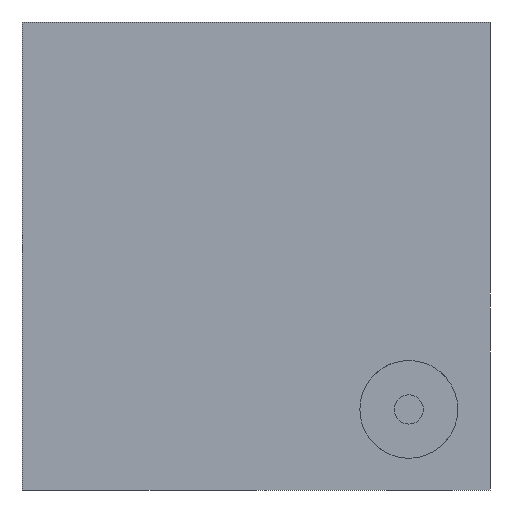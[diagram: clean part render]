
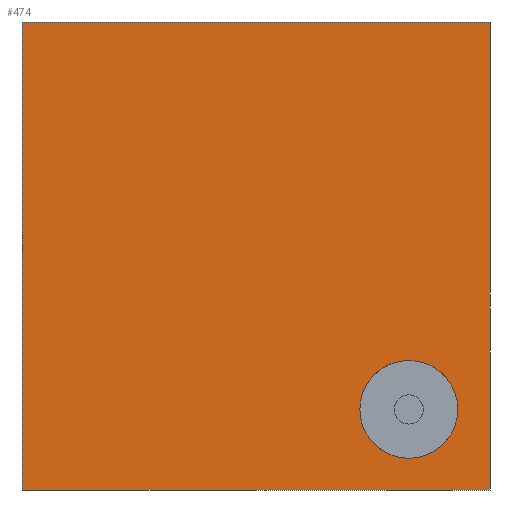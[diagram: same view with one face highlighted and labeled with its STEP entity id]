
A CAD part, left-side view. The second image highlights one B-rep face of the part: STEP entity #474.
In plain terms, the highlighted planar face has unit normal (-1, 0, 0).
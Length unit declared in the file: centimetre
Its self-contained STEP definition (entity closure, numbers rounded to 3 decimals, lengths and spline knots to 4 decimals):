
#4 = VERTEX_POINT ( 'NONE', #651 ) ;
#9 = DIRECTION ( 'NONE',  ( 1., 0., 0. ) ) ;
#27 = DIRECTION ( 'NONE',  ( 0., -1., 0. ) ) ;
#72 = EDGE_CURVE ( 'NONE', #420, #1209, #719, .T. ) ;
#87 = CARTESIAN_POINT ( 'NONE',  ( 0., 1000., 1000. ) ) ;
#90 = CIRCLE ( 'NONE', #266, 104.5799 ) ;
#158 = VERTEX_POINT ( 'NONE', #1439 ) ;
#172 = CARTESIAN_POINT ( 'NONE',  ( 0., 0., 0. ) ) ;
#225 = CARTESIAN_POINT ( 'NONE',  ( 0., 173.486, 172.2236 ) ) ;
#266 = AXIS2_PLACEMENT_3D ( 'NONE', #225, #1461, #657 ) ;
#271 = LINE ( 'NONE', #383, #549 ) ;
#303 = EDGE_LOOP ( 'NONE', ( #926, #1459, #341, #937 ) ) ;
#341 = ORIENTED_EDGE ( 'NONE', *, *, #692, .F. ) ;
#383 = CARTESIAN_POINT ( 'NONE',  ( 0., 1000., 1000. ) ) ;
#420 = VERTEX_POINT ( 'NONE', #831 ) ;
#474 = ADVANCED_FACE ( 'NONE', ( #724, #1118 ), #973, .F. ) ;
#531 = VECTOR ( 'NONE', #27, 100. ) ;
#549 = VECTOR ( 'NONE', #827, 100. ) ;
#567 = DIRECTION ( 'NONE',  ( 0., 0., -1. ) ) ;
#651 = CARTESIAN_POINT ( 'NONE',  ( 0., 0., 1000. ) ) ;
#657 = DIRECTION ( 'NONE',  ( 0., 0., 1. ) ) ;
#674 = EDGE_CURVE ( 'NONE', #1299, #158, #90, .T. ) ;
#692 = EDGE_CURVE ( 'NONE', #1308, #4, #774, .T. ) ;
#719 = LINE ( 'NONE', #1270, #531 ) ;
#724 = FACE_BOUND ( 'NONE', #1551, .T. ) ;
#774 = LINE ( 'NONE', #87, #1028 ) ;
#788 = ORIENTED_EDGE ( 'NONE', *, *, #931, .F. ) ;
#827 = DIRECTION ( 'NONE',  ( 0., 0., -1. ) ) ;
#831 = CARTESIAN_POINT ( 'NONE',  ( 0., 1000., 0. ) ) ;
#895 = EDGE_CURVE ( 'NONE', #1308, #420, #271, .T. ) ;
#926 = ORIENTED_EDGE ( 'NONE', *, *, #72, .T. ) ;
#931 = EDGE_CURVE ( 'NONE', #158, #1299, #1277, .T. ) ;
#937 = ORIENTED_EDGE ( 'NONE', *, *, #895, .T. ) ;
#942 = DIRECTION ( 'NONE',  ( 0., 0., -1. ) ) ;
#950 = DIRECTION ( 'NONE',  ( 0., 0., 1. ) ) ;
#973 = PLANE ( 'NONE',  #1778 ) ;
#1028 = VECTOR ( 'NONE', #1350, 100. ) ;
#1048 = CARTESIAN_POINT ( 'NONE',  ( 0., 0., 1000. ) ) ;
#1118 = FACE_OUTER_BOUND ( 'NONE', #303, .T. ) ;
#1145 = VECTOR ( 'NONE', #942, 100. ) ;
#1185 = LINE ( 'NONE', #1048, #1145 ) ;
#1209 = VERTEX_POINT ( 'NONE', #172 ) ;
#1270 = CARTESIAN_POINT ( 'NONE',  ( 0., 1000., 0. ) ) ;
#1277 = CIRCLE ( 'NONE', #1388, 104.5799 ) ;
#1299 = VERTEX_POINT ( 'NONE', #1421 ) ;
#1308 = VERTEX_POINT ( 'NONE', #1498 ) ;
#1350 = DIRECTION ( 'NONE',  ( 0., -1., 0. ) ) ;
#1388 = AXIS2_PLACEMENT_3D ( 'NONE', #1776, #1802, #950 ) ;
#1421 = CARTESIAN_POINT ( 'NONE',  ( 0., 173.486, 276.8035 ) ) ;
#1435 = ORIENTED_EDGE ( 'NONE', *, *, #674, .F. ) ;
#1439 = CARTESIAN_POINT ( 'NONE',  ( 0., 173.486, 67.6436 ) ) ;
#1459 = ORIENTED_EDGE ( 'NONE', *, *, #1609, .F. ) ;
#1461 = DIRECTION ( 'NONE',  ( -1., 0., 0. ) ) ;
#1498 = CARTESIAN_POINT ( 'NONE',  ( 0., 1000., 1000. ) ) ;
#1538 = CARTESIAN_POINT ( 'NONE',  ( 0., 1000., 1000. ) ) ;
#1551 = EDGE_LOOP ( 'NONE', ( #1435, #788 ) ) ;
#1609 = EDGE_CURVE ( 'NONE', #4, #1209, #1185, .T. ) ;
#1776 = CARTESIAN_POINT ( 'NONE',  ( 0., 173.486, 172.2236 ) ) ;
#1778 = AXIS2_PLACEMENT_3D ( 'NONE', #1538, #9, #567 ) ;
#1802 = DIRECTION ( 'NONE',  ( -1., 0., 0. ) ) ;
